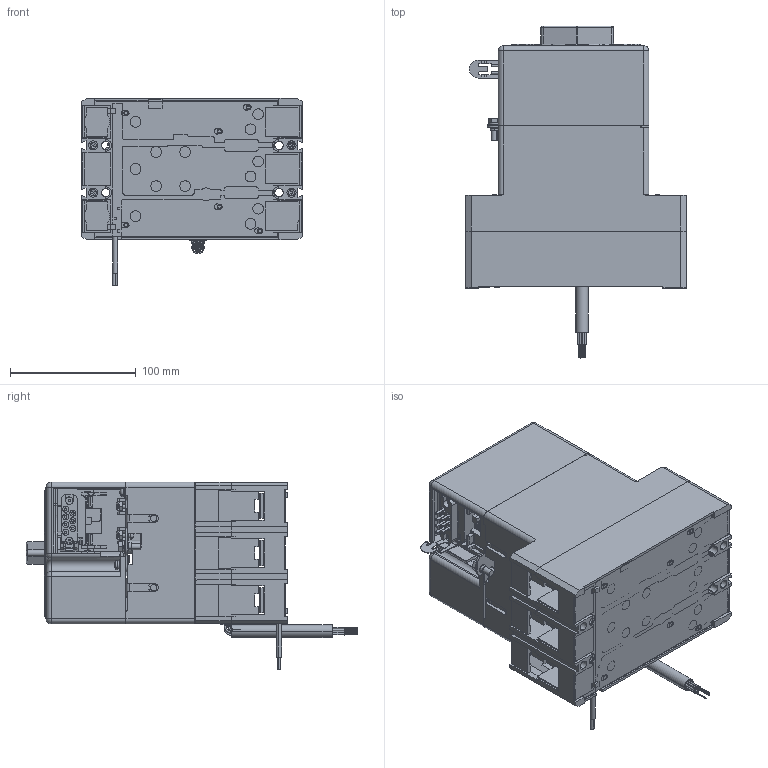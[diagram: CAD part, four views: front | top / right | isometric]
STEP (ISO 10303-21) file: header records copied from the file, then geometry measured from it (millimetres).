
FILE_DESCRIPTION (( 'STEP AP203' ), '1' );
FILE_NAME ('ÂÀ04 ñ ýëåêòðîïðèâîäîì.STEP', '2014-06-18T11:06:04', ( 'admin' ), ( 'Microsoft' ), 'SwSTEP 2.0', 'SolidWorks 2007', '' );
FILE_SCHEMA (( 'CONFIG_CONTROL_DESIGN' ));
Products named in the file (1): ÂÀ04 ñ ýëåêòðîïðèâîäîì
Bounding box: 175 x 263.42 x 148.97 mm (x, y, z)
Surface area: 314680.6 mm2 (no closed solid volume)
Topology: 0 solids, 147 shells, 1488 faces, 6421 edges, 4939 vertices
Faces by surface type: plane 746, cylinder 525, cone 59, torus 59, bspline 55, sphere 44
Entity records: 76720 total; most frequent: CARTESIAN_POINT 24667, DIRECTION 10855, ORIENTED_EDGE 9385, EDGE_CURVE 6411, VERTEX_POINT 4939, VECTOR 4077, LINE 4077, AXIS2_PLACEMENT_3D 3389
